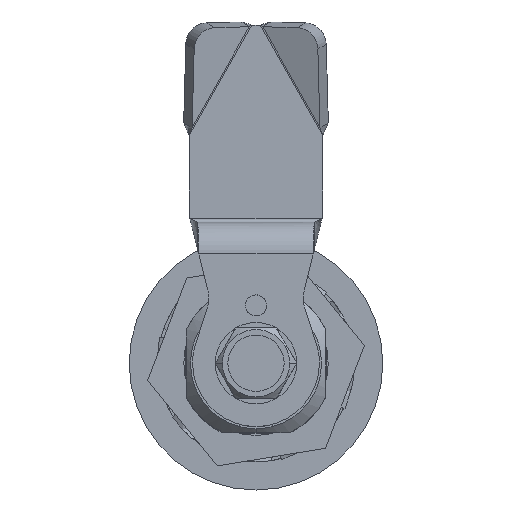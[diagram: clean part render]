
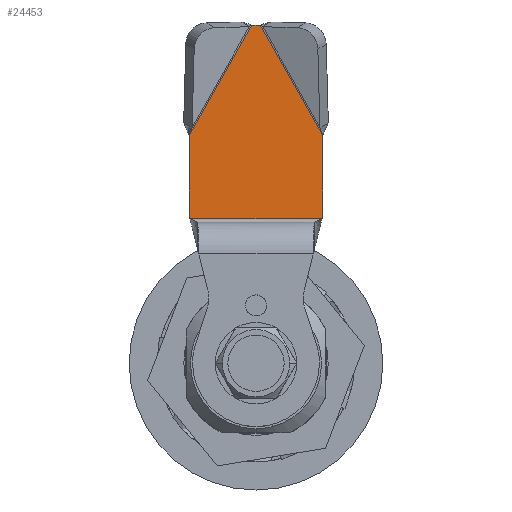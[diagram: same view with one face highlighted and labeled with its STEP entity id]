
A CAD part, front view. The second image highlights one B-rep face of the part: STEP entity #24453.
In plain terms, the highlighted planar face has unit normal (0, -1, 0) as drawn and (0, 1, 0) by its records, which use the part's own axes.
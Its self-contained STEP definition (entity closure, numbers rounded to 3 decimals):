
#23302 = VERTEX_POINT ( 'NONE', #97128 ) ;
#23306 = EDGE_CURVE ( 'NONE', #23302, #23308, #97127, .T. ) ;
#23308 = VERTEX_POINT ( 'NONE', #97123 ) ;
#23965 = VERTEX_POINT ( 'NONE', #98132 ) ;
#24060 = VERTEX_POINT ( 'NONE', #98298 ) ;
#24116 = VERTEX_POINT ( 'NONE', #98418 ) ;
#24207 = VERTEX_POINT ( 'NONE', #98564 ) ;
#24211 = EDGE_CURVE ( 'NONE', #24060, #24207, #98562, .T. ) ;
#24238 = VERTEX_POINT ( 'NONE', #98569 ) ;
#24256 = VERTEX_POINT ( 'NONE', #98638 ) ;
#24266 = EDGE_CURVE ( 'NONE', #24256, #23965, #98632, .T. ) ;
#24296 = EDGE_CURVE ( 'NONE', #24116, #24256, #98700, .T. ) ;
#24321 = EDGE_CURVE ( 'NONE', #24238, #23308, #98723, .T. ) ;
#24334 = EDGE_CURVE ( 'NONE', #23302, #24116, #98756, .T. ) ;
#24399 = ORIENTED_EDGE ( 'NONE', *, *, #24450, .T. ) ;
#24401 = ORIENTED_EDGE ( 'NONE', *, *, #24321, .T. ) ;
#24403 = ORIENTED_EDGE ( 'NONE', *, *, #23306, .F. ) ;
#24405 = ORIENTED_EDGE ( 'NONE', *, *, #24334, .T. ) ;
#24407 = ORIENTED_EDGE ( 'NONE', *, *, #24296, .T. ) ;
#24409 = ORIENTED_EDGE ( 'NONE', *, *, #24266, .T. ) ;
#24411 = ORIENTED_EDGE ( 'NONE', *, *, #24430, .T. ) ;
#24430 = EDGE_CURVE ( 'NONE', #23965, #24060, #98868, .T. ) ;
#24450 = EDGE_CURVE ( 'NONE', #24207, #24238, #98848, .T. ) ;
#24453 = ADVANCED_FACE ( 'NONE', ( #98895 ), #98880, .T. ) ;
#24456 = EDGE_LOOP ( 'NONE', ( #24458, #24399, #24401, #24403, #24405, #24407, #24409, #24411 ) ) ;
#24458 = ORIENTED_EDGE ( 'NONE', *, *, #24211, .T. ) ;
#97123 = CARTESIAN_POINT ( 'NONE',  ( 57., -12., 10.119 ) ) ;
#97124 = DIRECTION ( 'NONE',  ( 0., 0., 1. ) ) ;
#97125 = VECTOR ( 'NONE', #97124, 1000. ) ;
#97126 = CARTESIAN_POINT ( 'NONE',  ( 57., -12., 19. ) ) ;
#97127 = LINE ( 'NONE', #97126, #97125 ) ;
#97128 = CARTESIAN_POINT ( 'NONE',  ( 57., -12., 8.881 ) ) ;
#98132 = CARTESIAN_POINT ( 'NONE',  ( 29.5, -12., 0.125 ) ) ;
#98298 = CARTESIAN_POINT ( 'NONE',  ( 29.5, -12., 18.875 ) ) ;
#98418 = CARTESIAN_POINT ( 'NONE',  ( 41.327, -12., 0. ) ) ;
#98559 = DIRECTION ( 'NONE',  ( 0.97, 0., 0.243 ) ) ;
#98560 = VECTOR ( 'NONE', #98559, 1000. ) ;
#98561 = CARTESIAN_POINT ( 'NONE',  ( 29.059, -12., 18.765 ) ) ;
#98562 = LINE ( 'NONE', #98561, #98560 ) ;
#98564 = CARTESIAN_POINT ( 'NONE',  ( 30., -12., 19. ) ) ;
#98569 = CARTESIAN_POINT ( 'NONE',  ( 41.327, -12., 19. ) ) ;
#98629 = DIRECTION ( 'NONE',  ( -0.97, 0., 0.243 ) ) ;
#98630 = VECTOR ( 'NONE', #98629, 1000. ) ;
#98631 = CARTESIAN_POINT ( 'NONE',  ( 24.588, -12., 1.353 ) ) ;
#98632 = LINE ( 'NONE', #98631, #98630 ) ;
#98638 = CARTESIAN_POINT ( 'NONE',  ( 30., -12., 0. ) ) ;
#98692 = DIRECTION ( 'NONE',  ( -1., 0., 0. ) ) ;
#98693 = VECTOR ( 'NONE', #98692, 1000. ) ;
#98694 = CARTESIAN_POINT ( 'NONE',  ( 29., -12., 0. ) ) ;
#98700 = LINE ( 'NONE', #98694, #98693 ) ;
#98720 = DIRECTION ( 'NONE',  ( 0.87, 0., -0.493 ) ) ;
#98721 = VECTOR ( 'NONE', #98720, 1000. ) ;
#98722 = CARTESIAN_POINT ( 'NONE',  ( 41.327, -12., 19. ) ) ;
#98723 = LINE ( 'NONE', #98722, #98721 ) ;
#98753 = DIRECTION ( 'NONE',  ( -0.87, 0., -0.493 ) ) ;
#98754 = VECTOR ( 'NONE', #98753, 1000. ) ;
#98755 = CARTESIAN_POINT ( 'NONE',  ( 57., -12., 8.881 ) ) ;
#98756 = LINE ( 'NONE', #98755, #98754 ) ;
#98842 = CARTESIAN_POINT ( 'NONE',  ( 29., -12., 19. ) ) ;
#98848 = LINE ( 'NONE', #98842, #98897 ) ;
#98865 = DIRECTION ( 'NONE',  ( 0., 0., 1. ) ) ;
#98866 = VECTOR ( 'NONE', #98865, 1000. ) ;
#98867 = CARTESIAN_POINT ( 'NONE',  ( 29.5, -12., 19. ) ) ;
#98868 = LINE ( 'NONE', #98867, #98866 ) ;
#98875 = DIRECTION ( 'NONE',  ( 0., 0., 1. ) ) ;
#98876 = DIRECTION ( 'NONE',  ( 0., 1., 0. ) ) ;
#98877 = CARTESIAN_POINT ( 'NONE',  ( 29., -12., 19. ) ) ;
#98878 = AXIS2_PLACEMENT_3D ( 'NONE', #98877, #98876, #98875 ) ;
#98880 = PLANE ( 'NONE',  #98878 ) ;
#98895 = FACE_OUTER_BOUND ( 'NONE', #24456, .T. ) ;
#98896 = DIRECTION ( 'NONE',  ( 1., 0., 0. ) ) ;
#98897 = VECTOR ( 'NONE', #98896, 1000. ) ;
